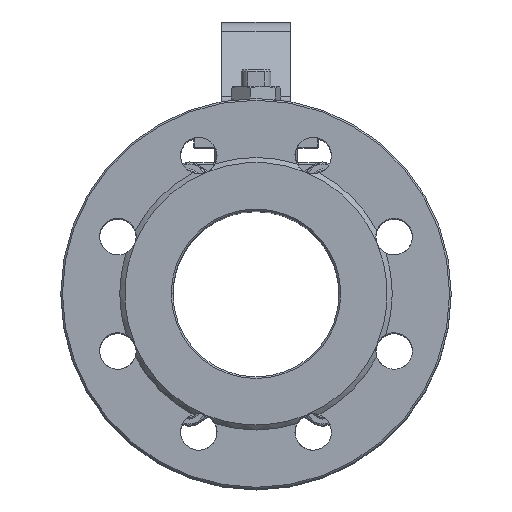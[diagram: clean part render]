
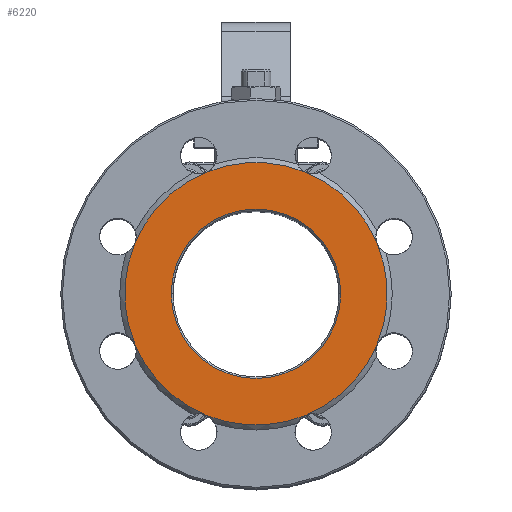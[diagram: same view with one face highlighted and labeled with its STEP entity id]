
A CAD part, top view. The second image highlights one B-rep face of the part: STEP entity #6220.
In plain terms, the highlighted planar face has unit normal (0, 0, 1).
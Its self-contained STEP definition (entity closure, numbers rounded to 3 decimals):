
#6220=ADVANCED_FACE('',(#20081,#20083),#20085,.F.);
#20081=FACE_BOUND('',#20082,.T.);
#20082=EDGE_LOOP('',(#29964,#29965,#29966,#29967,#29968,#29969,#29970,#29971));
#20083=FACE_BOUND('',#20084,.T.);
#20084=EDGE_LOOP('',(#29972));
#20085=PLANE('',#20086);
#20086=AXIS2_PLACEMENT_3D('',#20087,#20088,#20089);
#20087=CARTESIAN_POINT('',(0.,0.,175.));
#20088=DIRECTION('',(0.,0.,-1.));
#20089=DIRECTION('',(-1.,0.,0.));
#29964=ORIENTED_EDGE('',*,*,#34469,.F.);
#29965=ORIENTED_EDGE('',*,*,#34476,.F.);
#29966=ORIENTED_EDGE('',*,*,#34475,.F.);
#29967=ORIENTED_EDGE('',*,*,#34474,.F.);
#29968=ORIENTED_EDGE('',*,*,#34473,.F.);
#29969=ORIENTED_EDGE('',*,*,#34472,.F.);
#29970=ORIENTED_EDGE('',*,*,#34471,.F.);
#29971=ORIENTED_EDGE('',*,*,#34470,.F.);
#29972=ORIENTED_EDGE('',*,*,#34490,.F.);
#34469=EDGE_CURVE('',#41331,#41273,#41402,.F.);
#34470=EDGE_CURVE('',#41273,#41281,#41403,.F.);
#34471=EDGE_CURVE('',#41281,#41289,#41404,.F.);
#34472=EDGE_CURVE('',#41289,#41297,#41405,.F.);
#34473=EDGE_CURVE('',#41297,#41305,#41406,.F.);
#34474=EDGE_CURVE('',#41305,#41313,#41407,.F.);
#34475=EDGE_CURVE('',#41313,#41318,#41408,.F.);
#34476=EDGE_CURVE('',#41318,#41331,#41409,.F.);
#34490=EDGE_CURVE('',#41436,#41436,#41437,.T.);
#41273=VERTEX_POINT('',#91514);
#41281=VERTEX_POINT('',#91619);
#41289=VERTEX_POINT('',#91715);
#41297=VERTEX_POINT('',#91811);
#41305=VERTEX_POINT('',#91917);
#41313=VERTEX_POINT('',#92022);
#41318=VERTEX_POINT('',#92112);
#41331=VERTEX_POINT('',#92257);
#41402=CIRCLE('',#93147,79.);
#41403=CIRCLE('',#93151,79.);
#41404=CIRCLE('',#93155,79.);
#41405=CIRCLE('',#93159,79.);
#41406=CIRCLE('',#93163,79.);
#41407=CIRCLE('',#93167,79.);
#41408=CIRCLE('',#93171,79.);
#41409=CIRCLE('',#93175,79.);
#41436=VERTEX_POINT('',#93244);
#41437=CIRCLE('',#93245,51.);
#91514=CARTESIAN_POINT('',(-30.232,72.986,175.));
#91619=CARTESIAN_POINT('',(30.232,72.986,175.));
#91715=CARTESIAN_POINT('',(72.986,30.232,175.));
#91811=CARTESIAN_POINT('',(72.986,-30.232,175.));
#91917=CARTESIAN_POINT('',(30.232,-72.986,175.));
#92022=CARTESIAN_POINT('',(-30.232,-72.986,175.));
#92112=CARTESIAN_POINT('',(-72.986,-30.232,175.));
#92257=CARTESIAN_POINT('',(-72.986,30.232,175.));
#93147=AXIS2_PLACEMENT_3D('',#93148,#93149,#93150);
#93148=CARTESIAN_POINT('',(0.,0.,175.));
#93149=DIRECTION('',(0.,0.,1.));
#93150=DIRECTION('',(-0.383,0.924,0.));
#93151=AXIS2_PLACEMENT_3D('',#93152,#93153,#93154);
#93152=CARTESIAN_POINT('',(0.,0.,175.));
#93153=DIRECTION('',(0.,0.,1.));
#93154=DIRECTION('',(0.383,0.924,0.));
#93155=AXIS2_PLACEMENT_3D('',#93156,#93157,#93158);
#93156=CARTESIAN_POINT('',(0.,0.,175.));
#93157=DIRECTION('',(0.,0.,1.));
#93158=DIRECTION('',(0.924,0.383,0.));
#93159=AXIS2_PLACEMENT_3D('',#93160,#93161,#93162);
#93160=CARTESIAN_POINT('',(0.,0.,175.));
#93161=DIRECTION('',(0.,0.,1.));
#93162=DIRECTION('',(0.924,-0.383,0.));
#93163=AXIS2_PLACEMENT_3D('',#93164,#93165,#93166);
#93164=CARTESIAN_POINT('',(0.,0.,175.));
#93165=DIRECTION('',(0.,0.,1.));
#93166=DIRECTION('',(0.383,-0.924,0.));
#93167=AXIS2_PLACEMENT_3D('',#93168,#93169,#93170);
#93168=CARTESIAN_POINT('',(0.,0.,175.));
#93169=DIRECTION('',(0.,0.,1.));
#93170=DIRECTION('',(-0.383,-0.924,0.));
#93171=AXIS2_PLACEMENT_3D('',#93172,#93173,#93174);
#93172=CARTESIAN_POINT('',(0.,0.,175.));
#93173=DIRECTION('',(0.,0.,1.));
#93174=DIRECTION('',(-0.924,-0.383,0.));
#93175=AXIS2_PLACEMENT_3D('',#93176,#93177,#93178);
#93176=CARTESIAN_POINT('',(0.,0.,175.));
#93177=DIRECTION('',(0.,0.,1.));
#93178=DIRECTION('',(-0.924,0.383,0.));
#93244=CARTESIAN_POINT('',(-51.,0.,175.));
#93245=AXIS2_PLACEMENT_3D('',#93246,#93247,#93248);
#93246=CARTESIAN_POINT('',(0.,0.,175.));
#93247=DIRECTION('',(0.,0.,1.));
#93248=DIRECTION('',(-1.,0.,0.));
